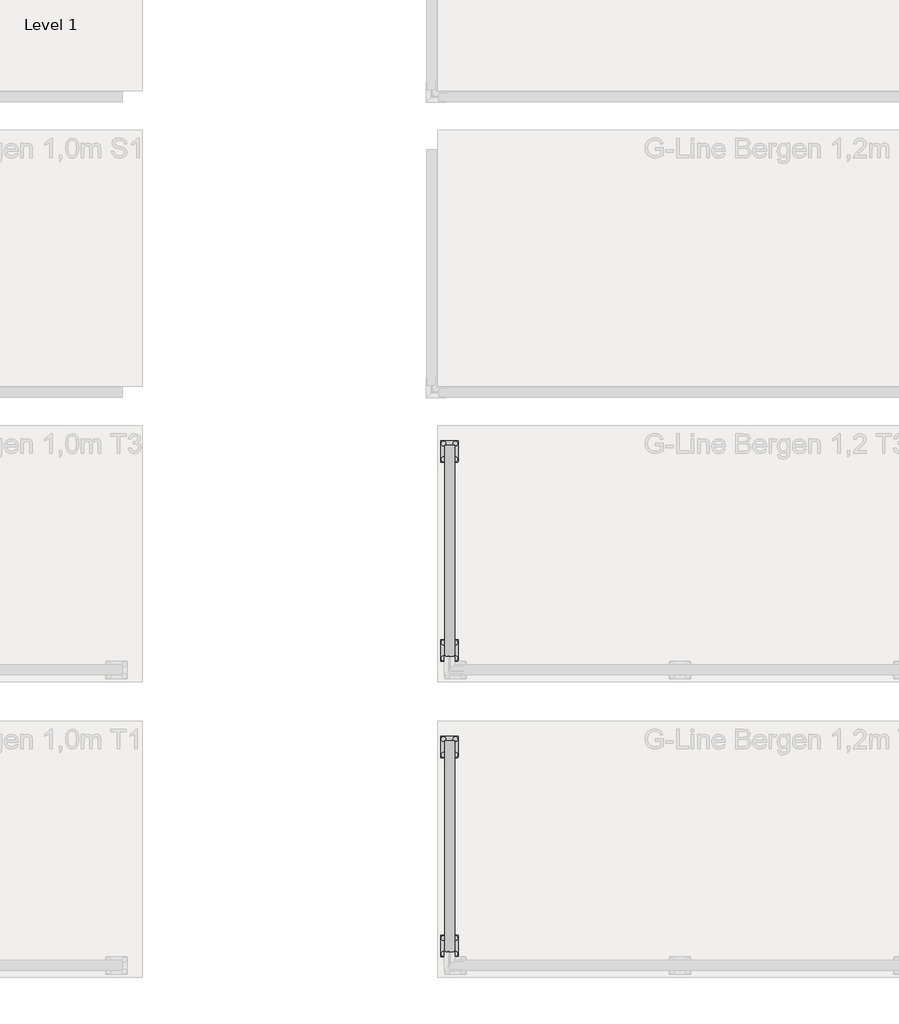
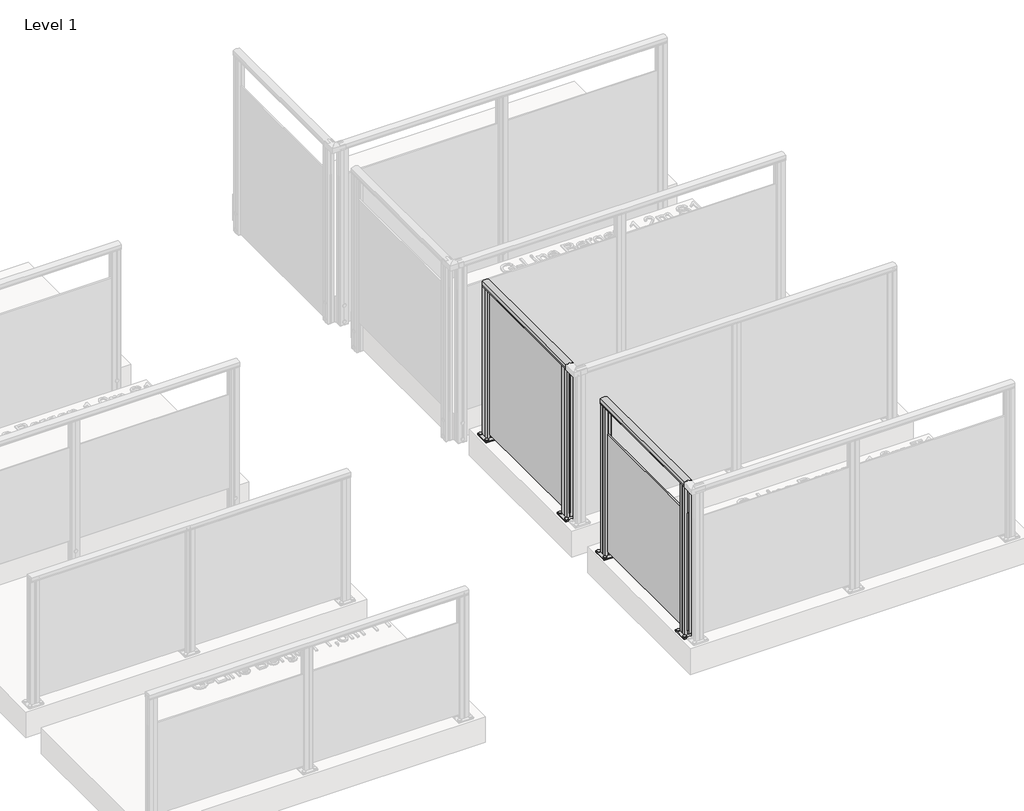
# One storey, part 20 of 66: 2 railings.
"""IFC4 building model written with IfcOpenShell, lengths in millimetres."""

from ifc_helpers import new_model, si_unit, point, frame, frame_2d, origin, origin_with_axes, place, context, project, spatial, polyline, circle_curve, trimmed, segment, composite_curve, outline, extrude, element, save

model = new_model("IFC4")

# Units and contexts
model_context = context("Model", 3, world=origin())
ifc_project = project(units=[si_unit("LENGTHUNIT", "METRE", prefix="MILLI")], contexts=[model_context])

# Site, building, storey
site = spatial("IfcSite", under=ifc_project)
building = spatial("IfcBuilding", under=site)
storey = spatial("IfcBuildingStorey", under=building, Name="Level 1", Elevation=0.0)

# Railings
placement = place(None, origin())
element("IfcRailing", 1, ObjectType="G-Line Bergen 1,2m T1", at=placement, inside=storey, context=model_context, shape_type="SweptSolid", body=[
    extrude(outline(composite_curve([segment(trimmed(circle_curve(frame_2d((1142.6785502, 8557.2511266)), 57.3235687), [point((1194.1390059, 8582.5060869))], [point((1194.1342258, 8531.9864286))], False, "CARTESIAN"), True, "CONTINUOUS"), segment(polyline([(1194.1342258, 8531.9864286), (1167.0235023, 8531.9864286), (1166.4415706, 8532.5683604), (1165.8194895, 8531.9462793), (1157.2498847, 8531.9462793), (1157.2498847, 8533.7512322), (1180.4998829, 8533.7512322), (1180.4998829, 8580.7462783), (1157.2498847, 8580.7462783), (1157.2498847, 8582.5060869), (1165.9694895, 8582.5060869), (1166.5842725, 8581.8913039), (1167.1990555, 8582.5060869), (1194.1390059, 8582.5060869)]), True, "CONTINUOUS")], self_intersect=False)), frame((0.0, -4351.1184021, 0.0), z_axis=(0.0, 1.0, 0.0), x_axis=(0.0, 0.0, 1.0)), (0.0, 0.0, 1.0), 1070.0),
    extrude(outline(polyline([(8552.1463105, -3281.1184021), (8560.9063105, -3281.1184021), (8560.9063105, -4351.1184021), (8552.1463105, -4351.1184021), (8552.1463105, -3281.1184021)])), frame((0.0, 0.0, 40.0), z_axis=(0.0, 0.0, 1.0), x_axis=(1.0, 0.0, 0.0)), (0.0, 0.0, 1.0), 910.0),
    extrude(outline(composite_curve([segment(trimmed(circle_curve(frame_2d((8526.5263105, -4281.1184021)), 11.9621755), [point((8514.564135, -4281.1184021))], [point((8538.488486, -4281.1184021))], False, "CARTESIAN"), True, "CONTINUOUS"), segment(trimmed(circle_curve(frame_2d((8526.5263105, -4281.1184021)), 11.9621755), [point((8538.488486, -4281.1184021))], [point((8514.564135, -4281.1184021))], False, "CARTESIAN"), True, "CONTINUOUS")], self_intersect=False)), frame((0.0, 0.0, 10.0), z_axis=(0.0, 0.0, 1.0), x_axis=(1.0, 0.0, 0.0)), (0.0, 0.0, 1.0), 5.0),
    extrude(outline(composite_curve([segment(trimmed(circle_curve(frame_2d((8586.5263105, -4281.1184021)), 11.9621755), [point((8574.564135, -4281.1184021))], [point((8598.488486, -4281.1184021))], False, "CARTESIAN"), True, "CONTINUOUS"), segment(trimmed(circle_curve(frame_2d((8586.5263105, -4281.1184021)), 11.9621755), [point((8598.488486, -4281.1184021))], [point((8574.564135, -4281.1184021))], False, "CARTESIAN"), True, "CONTINUOUS")], self_intersect=False)), frame((0.0, 0.0, 10.0), z_axis=(0.0, 0.0, 1.0), x_axis=(1.0, 0.0, 0.0)), (0.0, 0.0, 1.0), 5.0),
    extrude(outline(composite_curve([segment(trimmed(circle_curve(frame_2d((8526.5263105, -4361.1184021)), 11.9621755), [point((8514.564135, -4361.1184021))], [point((8538.488486, -4361.1184021))], False, "CARTESIAN"), True, "CONTINUOUS"), segment(trimmed(circle_curve(frame_2d((8526.5263105, -4361.1184021)), 11.9621755), [point((8538.488486, -4361.1184021))], [point((8514.564135, -4361.1184021))], False, "CARTESIAN"), True, "CONTINUOUS")], self_intersect=False)), frame((0.0, 0.0, 10.0), z_axis=(0.0, 0.0, 1.0), x_axis=(1.0, 0.0, 0.0)), (0.0, 0.0, 1.0), 5.0),
    extrude(outline(composite_curve([segment(trimmed(circle_curve(frame_2d((8586.5263105, -4361.1184021)), 11.9621755), [point((8574.564135, -4361.1184021))], [point((8598.488486, -4361.1184021))], False, "CARTESIAN"), True, "CONTINUOUS"), segment(trimmed(circle_curve(frame_2d((8586.5263105, -4361.1184021)), 11.9621755), [point((8598.488486, -4361.1184021))], [point((8574.564135, -4361.1184021))], False, "CARTESIAN"), True, "CONTINUOUS")], self_intersect=False)), frame((0.0, 0.0, 10.0), z_axis=(0.0, 0.0, 1.0), x_axis=(1.0, 0.0, 0.0)), (0.0, 0.0, 1.0), 5.0),
    extrude(outline(composite_curve([segment(trimmed(circle_curve(frame_2d((8596.5263105, -4271.1184021)), 5.0), [point((8596.5263105, -4266.1184021))], [point((8601.5263105, -4271.1184021))], False, "CARTESIAN"), True, "CONTINUOUS"), segment(polyline([(8601.5263105, -4271.1184021), (8601.5263105, -4371.1184021)]), True, "CONTINUOUS"), segment(trimmed(circle_curve(frame_2d((8596.5263105, -4371.1184021)), 5.0), [point((8601.5263105, -4371.1184021))], [point((8596.5263105, -4376.1184021))], False, "CARTESIAN"), True, "CONTINUOUS"), segment(polyline([(8596.5263105, -4376.1184021), (8516.5263105, -4376.1184021)]), True, "CONTINUOUS"), segment(trimmed(circle_curve(frame_2d((8516.5263105, -4371.1184021)), 5.0), [point((8516.5263105, -4376.1184021))], [point((8511.5263105, -4371.1184021))], False, "CARTESIAN"), True, "CONTINUOUS"), segment(polyline([(8511.5263105, -4371.1184021), (8511.5263105, -4271.1184021)]), True, "CONTINUOUS"), segment(trimmed(circle_curve(frame_2d((8516.5263105, -4271.1184021)), 5.0), [point((8511.5263105, -4271.1184021))], [point((8516.5263105, -4266.1184021))], False, "CARTESIAN"), True, "CONTINUOUS"), segment(polyline([(8516.5263105, -4266.1184021), (8596.5263105, -4266.1184021)]), True, "CONTINUOUS")], self_intersect=False), holes=[composite_curve([segment(trimmed(circle_curve(frame_2d((8586.5263105, -4281.1184021)), 6.25), [point((8580.2763105, -4281.1184021))], [point((8592.7763105, -4281.1184021))], True, "CARTESIAN"), True, "CONTINUOUS"), segment(trimmed(circle_curve(frame_2d((8586.5263105, -4281.1184021)), 6.25), [point((8592.7763105, -4281.1184021))], [point((8580.2763105, -4281.1184021))], True, "CARTESIAN"), True, "CONTINUOUS")], self_intersect=False), composite_curve([segment(trimmed(circle_curve(frame_2d((8526.5263105, -4281.1184021)), 6.25), [point((8520.2763105, -4281.1184021))], [point((8532.7763105, -4281.1184021))], True, "CARTESIAN"), True, "CONTINUOUS"), segment(trimmed(circle_curve(frame_2d((8526.5263105, -4281.1184021)), 6.25), [point((8532.7763105, -4281.1184021))], [point((8520.2763105, -4281.1184021))], True, "CARTESIAN"), True, "CONTINUOUS")], self_intersect=False), composite_curve([segment(trimmed(circle_curve(frame_2d((8526.5263105, -4361.1184021)), 6.25), [point((8520.2763105, -4361.1184021))], [point((8532.7763105, -4361.1184021))], True, "CARTESIAN"), True, "CONTINUOUS"), segment(trimmed(circle_curve(frame_2d((8526.5263105, -4361.1184021)), 6.25), [point((8532.7763105, -4361.1184021))], [point((8520.2763105, -4361.1184021))], True, "CARTESIAN"), True, "CONTINUOUS")], self_intersect=False), composite_curve([segment(trimmed(circle_curve(frame_2d((8586.5263105, -4361.1184021)), 6.25), [point((8580.2763105, -4361.1184021))], [point((8592.7763105, -4361.1184021))], True, "CARTESIAN"), True, "CONTINUOUS"), segment(trimmed(circle_curve(frame_2d((8586.5263105, -4361.1184021)), 6.25), [point((8592.7763105, -4361.1184021))], [point((8580.2763105, -4361.1184021))], True, "CARTESIAN"), True, "CONTINUOUS")], self_intersect=False)]), origin_with_axes(), (0.0, 0.0, 1.0), 10.0),
    extrude(outline(polyline([(8552.1804485, -4351.116809), (8534.0354487, -4351.1194812), (8534.0311828, -4322.1524942), (8535.0593241, -4321.12405), (8534.0709345, -4320.1359515), (8534.0666613, -4291.119476), (8552.1716124, -4291.1168097), (8552.1741896, -4308.6168095), (8560.9341895, -4308.6155194), (8560.9316123, -4291.1155196), (8579.0266121, -4291.1128548), (8579.030878, -4320.0798417), (8578.1125457, -4321.1177096), (8578.9909678, -4321.995873), (8578.9952559, -4351.11286), (8560.9404484, -4351.1155189), (8560.9378712, -4333.6155191), (8552.1778713, -4333.6168092), (8552.1804485, -4351.116809)]), holes=[polyline([(8577.0323262, -4312.3191871), (8536.0297347, -4312.3191871), (8536.0297347, -4329.9131488), (8577.0323262, -4329.9131488), (8577.0323262, -4312.3191871)]), polyline([(8550.17444, -4293.1191873), (8536.0269071, -4293.1191873), (8536.0269071, -4310.317104), (8550.17444, -4310.317104), (8550.17444, -4293.1191873)]), polyline([(8577.0323262, -4293.115225), (8562.9319068, -4293.115225), (8562.9319068, -4310.3131487), (8577.0323262, -4310.3131487), (8577.0323262, -4293.115225)]), polyline([(8550.180154, -4331.9191868), (8536.0326211, -4331.9191868), (8536.0326211, -4349.1171035), (8550.180154, -4349.1171035), (8550.180154, -4331.9191868)]), polyline([(8577.0851537, -4331.9152246), (8562.9376209, -4331.9152246), (8562.9376209, -4349.1131413), (8577.0851537, -4349.1131413), (8577.0851537, -4331.9152246)])]), frame((0.0, 0.0, 10.0), z_axis=(0.0, 0.0, 1.0), x_axis=(1.0, 0.0, 0.0)), (0.0, 0.0, 1.0), 1171.0),
    extrude(outline(composite_curve([segment(trimmed(circle_curve(frame_2d((8526.5263105, -3271.1184021)), 11.9621755), [point((8514.564135, -3271.1184021))], [point((8538.488486, -3271.1184021))], False, "CARTESIAN"), True, "CONTINUOUS"), segment(trimmed(circle_curve(frame_2d((8526.5263105, -3271.1184021)), 11.9621755), [point((8538.488486, -3271.1184021))], [point((8514.564135, -3271.1184021))], False, "CARTESIAN"), True, "CONTINUOUS")], self_intersect=False)), frame((0.0, 0.0, 10.0), z_axis=(0.0, 0.0, 1.0), x_axis=(1.0, 0.0, 0.0)), (0.0, 0.0, 1.0), 5.0),
    extrude(outline(composite_curve([segment(trimmed(circle_curve(frame_2d((8586.5263105, -3271.1184021)), 11.9621755), [point((8574.564135, -3271.1184021))], [point((8598.488486, -3271.1184021))], False, "CARTESIAN"), True, "CONTINUOUS"), segment(trimmed(circle_curve(frame_2d((8586.5263105, -3271.1184021)), 11.9621755), [point((8598.488486, -3271.1184021))], [point((8574.564135, -3271.1184021))], False, "CARTESIAN"), True, "CONTINUOUS")], self_intersect=False)), frame((0.0, 0.0, 10.0), z_axis=(0.0, 0.0, 1.0), x_axis=(1.0, 0.0, 0.0)), (0.0, 0.0, 1.0), 5.0),
    extrude(outline(composite_curve([segment(trimmed(circle_curve(frame_2d((8526.5263105, -3351.1184021)), 11.9621755), [point((8514.564135, -3351.1184021))], [point((8538.488486, -3351.1184021))], False, "CARTESIAN"), True, "CONTINUOUS"), segment(trimmed(circle_curve(frame_2d((8526.5263105, -3351.1184021)), 11.9621755), [point((8538.488486, -3351.1184021))], [point((8514.564135, -3351.1184021))], False, "CARTESIAN"), True, "CONTINUOUS")], self_intersect=False)), frame((0.0, 0.0, 10.0), z_axis=(0.0, 0.0, 1.0), x_axis=(1.0, 0.0, 0.0)), (0.0, 0.0, 1.0), 5.0),
    extrude(outline(composite_curve([segment(trimmed(circle_curve(frame_2d((8586.5263105, -3351.1184021)), 11.9621755), [point((8574.564135, -3351.1184021))], [point((8598.488486, -3351.1184021))], False, "CARTESIAN"), True, "CONTINUOUS"), segment(trimmed(circle_curve(frame_2d((8586.5263105, -3351.1184021)), 11.9621755), [point((8598.488486, -3351.1184021))], [point((8574.564135, -3351.1184021))], False, "CARTESIAN"), True, "CONTINUOUS")], self_intersect=False)), frame((0.0, 0.0, 10.0), z_axis=(0.0, 0.0, 1.0), x_axis=(1.0, 0.0, 0.0)), (0.0, 0.0, 1.0), 5.0),
    extrude(outline(composite_curve([segment(trimmed(circle_curve(frame_2d((8596.5263105, -3261.1184021)), 5.0), [point((8596.5263105, -3256.1184021))], [point((8601.5263105, -3261.1184021))], False, "CARTESIAN"), True, "CONTINUOUS"), segment(polyline([(8601.5263105, -3261.1184021), (8601.5263105, -3361.1184021)]), True, "CONTINUOUS"), segment(trimmed(circle_curve(frame_2d((8596.5263105, -3361.1184021)), 5.0), [point((8601.5263105, -3361.1184021))], [point((8596.5263105, -3366.1184021))], False, "CARTESIAN"), True, "CONTINUOUS"), segment(polyline([(8596.5263105, -3366.1184021), (8516.5263105, -3366.1184021)]), True, "CONTINUOUS"), segment(trimmed(circle_curve(frame_2d((8516.5263105, -3361.1184021)), 5.0), [point((8516.5263105, -3366.1184021))], [point((8511.5263105, -3361.1184021))], False, "CARTESIAN"), True, "CONTINUOUS"), segment(polyline([(8511.5263105, -3361.1184021), (8511.5263105, -3261.1184021)]), True, "CONTINUOUS"), segment(trimmed(circle_curve(frame_2d((8516.5263105, -3261.1184021)), 5.0), [point((8511.5263105, -3261.1184021))], [point((8516.5263105, -3256.1184021))], False, "CARTESIAN"), True, "CONTINUOUS"), segment(polyline([(8516.5263105, -3256.1184021), (8596.5263105, -3256.1184021)]), True, "CONTINUOUS")], self_intersect=False), holes=[composite_curve([segment(trimmed(circle_curve(frame_2d((8586.5263105, -3271.1184021)), 6.25), [point((8580.2763105, -3271.1184021))], [point((8592.7763105, -3271.1184021))], True, "CARTESIAN"), True, "CONTINUOUS"), segment(trimmed(circle_curve(frame_2d((8586.5263105, -3271.1184021)), 6.25), [point((8592.7763105, -3271.1184021))], [point((8580.2763105, -3271.1184021))], True, "CARTESIAN"), True, "CONTINUOUS")], self_intersect=False), composite_curve([segment(trimmed(circle_curve(frame_2d((8526.5263105, -3271.1184021)), 6.25), [point((8520.2763105, -3271.1184021))], [point((8532.7763105, -3271.1184021))], True, "CARTESIAN"), True, "CONTINUOUS"), segment(trimmed(circle_curve(frame_2d((8526.5263105, -3271.1184021)), 6.25), [point((8532.7763105, -3271.1184021))], [point((8520.2763105, -3271.1184021))], True, "CARTESIAN"), True, "CONTINUOUS")], self_intersect=False), composite_curve([segment(trimmed(circle_curve(frame_2d((8526.5263105, -3351.1184021)), 6.25), [point((8520.2763105, -3351.1184021))], [point((8532.7763105, -3351.1184021))], True, "CARTESIAN"), True, "CONTINUOUS"), segment(trimmed(circle_curve(frame_2d((8526.5263105, -3351.1184021)), 6.25), [point((8532.7763105, -3351.1184021))], [point((8520.2763105, -3351.1184021))], True, "CARTESIAN"), True, "CONTINUOUS")], self_intersect=False), composite_curve([segment(trimmed(circle_curve(frame_2d((8586.5263105, -3351.1184021)), 6.25), [point((8580.2763105, -3351.1184021))], [point((8592.7763105, -3351.1184021))], True, "CARTESIAN"), True, "CONTINUOUS"), segment(trimmed(circle_curve(frame_2d((8586.5263105, -3351.1184021)), 6.25), [point((8592.7763105, -3351.1184021))], [point((8580.2763105, -3351.1184021))], True, "CARTESIAN"), True, "CONTINUOUS")], self_intersect=False)]), origin_with_axes(), (0.0, 0.0, 1.0), 10.0),
    extrude(outline(polyline([(8552.1804485, -3341.116809), (8534.0354487, -3341.1194812), (8534.0311828, -3312.1524942), (8535.0593241, -3311.12405), (8534.0709345, -3310.1359515), (8534.0666613, -3281.119476), (8552.1716124, -3281.1168097), (8552.1741896, -3298.6168095), (8560.9341895, -3298.6155194), (8560.9316123, -3281.1155196), (8579.0266121, -3281.1128548), (8579.030878, -3310.0798417), (8578.1125457, -3311.1177096), (8578.9909678, -3311.995873), (8578.9952559, -3341.11286), (8560.9404484, -3341.1155189), (8560.9378712, -3323.6155191), (8552.1778713, -3323.6168092), (8552.1804485, -3341.116809)]), holes=[polyline([(8577.0323262, -3302.3191871), (8536.0297347, -3302.3191871), (8536.0297347, -3319.9131488), (8577.0323262, -3319.9131488), (8577.0323262, -3302.3191871)]), polyline([(8550.17444, -3283.1191873), (8536.0269071, -3283.1191873), (8536.0269071, -3300.317104), (8550.17444, -3300.317104), (8550.17444, -3283.1191873)]), polyline([(8577.0323262, -3283.115225), (8562.9319068, -3283.115225), (8562.9319068, -3300.3131487), (8577.0323262, -3300.3131487), (8577.0323262, -3283.115225)]), polyline([(8550.180154, -3321.9191868), (8536.0326211, -3321.9191868), (8536.0326211, -3339.1171035), (8550.180154, -3339.1171035), (8550.180154, -3321.9191868)]), polyline([(8577.0851537, -3321.9152246), (8562.9376209, -3321.9152246), (8562.9376209, -3339.1131413), (8577.0851537, -3339.1131413), (8577.0851537, -3321.9152246)])]), frame((0.0, 0.0, 10.0), z_axis=(0.0, 0.0, 1.0), x_axis=(1.0, 0.0, 0.0)), (0.0, 0.0, 1.0), 1171.0),
])
element("IfcRailing", 2, ObjectType="G-Line Bergen 1,2m T3", at=placement, inside=storey, context=model_context, shape_type="SweptSolid", body=[
    extrude(outline(composite_curve([segment(trimmed(circle_curve(frame_2d((1142.6785502, 8557.2511266)), 57.3235687), [point((1194.1390059, 8582.5060869))], [point((1194.1342258, 8531.9864286))], False, "CARTESIAN"), True, "CONTINUOUS"), segment(polyline([(1194.1342258, 8531.9864286), (1167.0235023, 8531.9864286), (1166.4415706, 8532.5683604), (1165.8194895, 8531.9462793), (1157.2498847, 8531.9462793), (1157.2498847, 8533.7512322), (1180.4998829, 8533.7512322), (1180.4998829, 8580.7462783), (1157.2498847, 8580.7462783), (1157.2498847, 8582.5060869), (1165.9694895, 8582.5060869), (1166.5842725, 8581.8913039), (1167.1990555, 8582.5060869), (1194.1390059, 8582.5060869)]), True, "CONTINUOUS")], self_intersect=False)), frame((0.0, -2851.1184021, 0.0), z_axis=(0.0, 1.0, 0.0), x_axis=(0.0, 0.0, 1.0)), (0.0, 0.0, 1.0), 1070.0),
    extrude(outline(polyline([(8552.1463105, -1781.1184021), (8560.9063105, -1781.1184021), (8560.9063105, -2851.1184021), (8552.1463105, -2851.1184021), (8552.1463105, -1781.1184021)])), frame((0.0, 0.0, 40.0), z_axis=(0.0, 0.0, 1.0), x_axis=(1.0, 0.0, 0.0)), (0.0, 0.0, 1.0), 1140.0),
    extrude(outline(composite_curve([segment(trimmed(circle_curve(frame_2d((8526.5263105, -2781.1184021)), 11.9621755), [point((8514.564135, -2781.1184021))], [point((8538.488486, -2781.1184021))], False, "CARTESIAN"), True, "CONTINUOUS"), segment(trimmed(circle_curve(frame_2d((8526.5263105, -2781.1184021)), 11.9621755), [point((8538.488486, -2781.1184021))], [point((8514.564135, -2781.1184021))], False, "CARTESIAN"), True, "CONTINUOUS")], self_intersect=False)), frame((0.0, 0.0, 10.0), z_axis=(0.0, 0.0, 1.0), x_axis=(1.0, 0.0, 0.0)), (0.0, 0.0, 1.0), 5.0),
    extrude(outline(composite_curve([segment(trimmed(circle_curve(frame_2d((8586.5263105, -2781.1184021)), 11.9621755), [point((8574.564135, -2781.1184021))], [point((8598.488486, -2781.1184021))], False, "CARTESIAN"), True, "CONTINUOUS"), segment(trimmed(circle_curve(frame_2d((8586.5263105, -2781.1184021)), 11.9621755), [point((8598.488486, -2781.1184021))], [point((8574.564135, -2781.1184021))], False, "CARTESIAN"), True, "CONTINUOUS")], self_intersect=False)), frame((0.0, 0.0, 10.0), z_axis=(0.0, 0.0, 1.0), x_axis=(1.0, 0.0, 0.0)), (0.0, 0.0, 1.0), 5.0),
    extrude(outline(composite_curve([segment(trimmed(circle_curve(frame_2d((8526.5263105, -2861.1184021)), 11.9621755), [point((8514.564135, -2861.1184021))], [point((8538.488486, -2861.1184021))], False, "CARTESIAN"), True, "CONTINUOUS"), segment(trimmed(circle_curve(frame_2d((8526.5263105, -2861.1184021)), 11.9621755), [point((8538.488486, -2861.1184021))], [point((8514.564135, -2861.1184021))], False, "CARTESIAN"), True, "CONTINUOUS")], self_intersect=False)), frame((0.0, 0.0, 10.0), z_axis=(0.0, 0.0, 1.0), x_axis=(1.0, 0.0, 0.0)), (0.0, 0.0, 1.0), 5.0),
    extrude(outline(composite_curve([segment(trimmed(circle_curve(frame_2d((8586.5263105, -2861.1184021)), 11.9621755), [point((8574.564135, -2861.1184021))], [point((8598.488486, -2861.1184021))], False, "CARTESIAN"), True, "CONTINUOUS"), segment(trimmed(circle_curve(frame_2d((8586.5263105, -2861.1184021)), 11.9621755), [point((8598.488486, -2861.1184021))], [point((8574.564135, -2861.1184021))], False, "CARTESIAN"), True, "CONTINUOUS")], self_intersect=False)), frame((0.0, 0.0, 10.0), z_axis=(0.0, 0.0, 1.0), x_axis=(1.0, 0.0, 0.0)), (0.0, 0.0, 1.0), 5.0),
    extrude(outline(composite_curve([segment(trimmed(circle_curve(frame_2d((8596.5263105, -2771.1184021)), 5.0), [point((8596.5263105, -2766.1184021))], [point((8601.5263105, -2771.1184021))], False, "CARTESIAN"), True, "CONTINUOUS"), segment(polyline([(8601.5263105, -2771.1184021), (8601.5263105, -2871.1184021)]), True, "CONTINUOUS"), segment(trimmed(circle_curve(frame_2d((8596.5263105, -2871.1184021)), 5.0), [point((8601.5263105, -2871.1184021))], [point((8596.5263105, -2876.1184021))], False, "CARTESIAN"), True, "CONTINUOUS"), segment(polyline([(8596.5263105, -2876.1184021), (8516.5263105, -2876.1184021)]), True, "CONTINUOUS"), segment(trimmed(circle_curve(frame_2d((8516.5263105, -2871.1184021)), 5.0), [point((8516.5263105, -2876.1184021))], [point((8511.5263105, -2871.1184021))], False, "CARTESIAN"), True, "CONTINUOUS"), segment(polyline([(8511.5263105, -2871.1184021), (8511.5263105, -2771.1184021)]), True, "CONTINUOUS"), segment(trimmed(circle_curve(frame_2d((8516.5263105, -2771.1184021)), 5.0), [point((8511.5263105, -2771.1184021))], [point((8516.5263105, -2766.1184021))], False, "CARTESIAN"), True, "CONTINUOUS"), segment(polyline([(8516.5263105, -2766.1184021), (8596.5263105, -2766.1184021)]), True, "CONTINUOUS")], self_intersect=False), holes=[composite_curve([segment(trimmed(circle_curve(frame_2d((8586.5263105, -2781.1184021)), 6.25), [point((8580.2763105, -2781.1184021))], [point((8592.7763105, -2781.1184021))], True, "CARTESIAN"), True, "CONTINUOUS"), segment(trimmed(circle_curve(frame_2d((8586.5263105, -2781.1184021)), 6.25), [point((8592.7763105, -2781.1184021))], [point((8580.2763105, -2781.1184021))], True, "CARTESIAN"), True, "CONTINUOUS")], self_intersect=False), composite_curve([segment(trimmed(circle_curve(frame_2d((8526.5263105, -2781.1184021)), 6.25), [point((8520.2763105, -2781.1184021))], [point((8532.7763105, -2781.1184021))], True, "CARTESIAN"), True, "CONTINUOUS"), segment(trimmed(circle_curve(frame_2d((8526.5263105, -2781.1184021)), 6.25), [point((8532.7763105, -2781.1184021))], [point((8520.2763105, -2781.1184021))], True, "CARTESIAN"), True, "CONTINUOUS")], self_intersect=False), composite_curve([segment(trimmed(circle_curve(frame_2d((8526.5263105, -2861.1184021)), 6.25), [point((8520.2763105, -2861.1184021))], [point((8532.7763105, -2861.1184021))], True, "CARTESIAN"), True, "CONTINUOUS"), segment(trimmed(circle_curve(frame_2d((8526.5263105, -2861.1184021)), 6.25), [point((8532.7763105, -2861.1184021))], [point((8520.2763105, -2861.1184021))], True, "CARTESIAN"), True, "CONTINUOUS")], self_intersect=False), composite_curve([segment(trimmed(circle_curve(frame_2d((8586.5263105, -2861.1184021)), 6.25), [point((8580.2763105, -2861.1184021))], [point((8592.7763105, -2861.1184021))], True, "CARTESIAN"), True, "CONTINUOUS"), segment(trimmed(circle_curve(frame_2d((8586.5263105, -2861.1184021)), 6.25), [point((8592.7763105, -2861.1184021))], [point((8580.2763105, -2861.1184021))], True, "CARTESIAN"), True, "CONTINUOUS")], self_intersect=False)]), origin_with_axes(), (0.0, 0.0, 1.0), 10.0),
    extrude(outline(polyline([(8552.1804485, -2851.116809), (8534.0354487, -2851.1194812), (8534.0311828, -2822.1524942), (8535.0593241, -2821.12405), (8534.0709345, -2820.1359515), (8534.0666613, -2791.119476), (8552.1716124, -2791.1168097), (8552.1741896, -2808.6168095), (8560.9341895, -2808.6155194), (8560.9316123, -2791.1155196), (8579.0266121, -2791.1128548), (8579.030878, -2820.0798417), (8578.1125457, -2821.1177096), (8578.9909678, -2821.995873), (8578.9952559, -2851.11286), (8560.9404484, -2851.1155189), (8560.9378712, -2833.6155191), (8552.1778713, -2833.6168092), (8552.1804485, -2851.116809)]), holes=[polyline([(8577.0323262, -2812.3191871), (8536.0297347, -2812.3191871), (8536.0297347, -2829.9131488), (8577.0323262, -2829.9131488), (8577.0323262, -2812.3191871)]), polyline([(8550.17444, -2793.1191873), (8536.0269071, -2793.1191873), (8536.0269071, -2810.317104), (8550.17444, -2810.317104), (8550.17444, -2793.1191873)]), polyline([(8577.0323262, -2793.115225), (8562.9319068, -2793.115225), (8562.9319068, -2810.3131487), (8577.0323262, -2810.3131487), (8577.0323262, -2793.115225)]), polyline([(8550.180154, -2831.9191868), (8536.0326211, -2831.9191868), (8536.0326211, -2849.1171035), (8550.180154, -2849.1171035), (8550.180154, -2831.9191868)]), polyline([(8577.0851537, -2831.9152246), (8562.9376209, -2831.9152246), (8562.9376209, -2849.1131413), (8577.0851537, -2849.1131413), (8577.0851537, -2831.9152246)])]), frame((0.0, 0.0, 10.0), z_axis=(0.0, 0.0, 1.0), x_axis=(1.0, 0.0, 0.0)), (0.0, 0.0, 1.0), 1171.0),
    extrude(outline(composite_curve([segment(trimmed(circle_curve(frame_2d((8526.5263105, -1771.1184021)), 11.9621755), [point((8514.564135, -1771.1184021))], [point((8538.488486, -1771.1184021))], False, "CARTESIAN"), True, "CONTINUOUS"), segment(trimmed(circle_curve(frame_2d((8526.5263105, -1771.1184021)), 11.9621755), [point((8538.488486, -1771.1184021))], [point((8514.564135, -1771.1184021))], False, "CARTESIAN"), True, "CONTINUOUS")], self_intersect=False)), frame((0.0, 0.0, 10.0), z_axis=(0.0, 0.0, 1.0), x_axis=(1.0, 0.0, 0.0)), (0.0, 0.0, 1.0), 5.0),
    extrude(outline(composite_curve([segment(trimmed(circle_curve(frame_2d((8586.5263105, -1771.1184021)), 11.9621755), [point((8574.564135, -1771.1184021))], [point((8598.488486, -1771.1184021))], False, "CARTESIAN"), True, "CONTINUOUS"), segment(trimmed(circle_curve(frame_2d((8586.5263105, -1771.1184021)), 11.9621755), [point((8598.488486, -1771.1184021))], [point((8574.564135, -1771.1184021))], False, "CARTESIAN"), True, "CONTINUOUS")], self_intersect=False)), frame((0.0, 0.0, 10.0), z_axis=(0.0, 0.0, 1.0), x_axis=(1.0, 0.0, 0.0)), (0.0, 0.0, 1.0), 5.0),
    extrude(outline(composite_curve([segment(trimmed(circle_curve(frame_2d((8526.5263105, -1851.1184021)), 11.9621755), [point((8514.564135, -1851.1184021))], [point((8538.488486, -1851.1184021))], False, "CARTESIAN"), True, "CONTINUOUS"), segment(trimmed(circle_curve(frame_2d((8526.5263105, -1851.1184021)), 11.9621755), [point((8538.488486, -1851.1184021))], [point((8514.564135, -1851.1184021))], False, "CARTESIAN"), True, "CONTINUOUS")], self_intersect=False)), frame((0.0, 0.0, 10.0), z_axis=(0.0, 0.0, 1.0), x_axis=(1.0, 0.0, 0.0)), (0.0, 0.0, 1.0), 5.0),
    extrude(outline(composite_curve([segment(trimmed(circle_curve(frame_2d((8586.5263105, -1851.1184021)), 11.9621755), [point((8574.564135, -1851.1184021))], [point((8598.488486, -1851.1184021))], False, "CARTESIAN"), True, "CONTINUOUS"), segment(trimmed(circle_curve(frame_2d((8586.5263105, -1851.1184021)), 11.9621755), [point((8598.488486, -1851.1184021))], [point((8574.564135, -1851.1184021))], False, "CARTESIAN"), True, "CONTINUOUS")], self_intersect=False)), frame((0.0, 0.0, 10.0), z_axis=(0.0, 0.0, 1.0), x_axis=(1.0, 0.0, 0.0)), (0.0, 0.0, 1.0), 5.0),
    extrude(outline(composite_curve([segment(trimmed(circle_curve(frame_2d((8596.5263105, -1761.1184021)), 5.0), [point((8596.5263105, -1756.1184021))], [point((8601.5263105, -1761.1184021))], False, "CARTESIAN"), True, "CONTINUOUS"), segment(polyline([(8601.5263105, -1761.1184021), (8601.5263105, -1861.1184021)]), True, "CONTINUOUS"), segment(trimmed(circle_curve(frame_2d((8596.5263105, -1861.1184021)), 5.0), [point((8601.5263105, -1861.1184021))], [point((8596.5263105, -1866.1184021))], False, "CARTESIAN"), True, "CONTINUOUS"), segment(polyline([(8596.5263105, -1866.1184021), (8516.5263105, -1866.1184021)]), True, "CONTINUOUS"), segment(trimmed(circle_curve(frame_2d((8516.5263105, -1861.1184021)), 5.0), [point((8516.5263105, -1866.1184021))], [point((8511.5263105, -1861.1184021))], False, "CARTESIAN"), True, "CONTINUOUS"), segment(polyline([(8511.5263105, -1861.1184021), (8511.5263105, -1761.1184021)]), True, "CONTINUOUS"), segment(trimmed(circle_curve(frame_2d((8516.5263105, -1761.1184021)), 5.0), [point((8511.5263105, -1761.1184021))], [point((8516.5263105, -1756.1184021))], False, "CARTESIAN"), True, "CONTINUOUS"), segment(polyline([(8516.5263105, -1756.1184021), (8596.5263105, -1756.1184021)]), True, "CONTINUOUS")], self_intersect=False), holes=[composite_curve([segment(trimmed(circle_curve(frame_2d((8586.5263105, -1771.1184021)), 6.25), [point((8580.2763105, -1771.1184021))], [point((8592.7763105, -1771.1184021))], True, "CARTESIAN"), True, "CONTINUOUS"), segment(trimmed(circle_curve(frame_2d((8586.5263105, -1771.1184021)), 6.25), [point((8592.7763105, -1771.1184021))], [point((8580.2763105, -1771.1184021))], True, "CARTESIAN"), True, "CONTINUOUS")], self_intersect=False), composite_curve([segment(trimmed(circle_curve(frame_2d((8526.5263105, -1771.1184021)), 6.25), [point((8520.2763105, -1771.1184021))], [point((8532.7763105, -1771.1184021))], True, "CARTESIAN"), True, "CONTINUOUS"), segment(trimmed(circle_curve(frame_2d((8526.5263105, -1771.1184021)), 6.25), [point((8532.7763105, -1771.1184021))], [point((8520.2763105, -1771.1184021))], True, "CARTESIAN"), True, "CONTINUOUS")], self_intersect=False), composite_curve([segment(trimmed(circle_curve(frame_2d((8526.5263105, -1851.1184021)), 6.25), [point((8520.2763105, -1851.1184021))], [point((8532.7763105, -1851.1184021))], True, "CARTESIAN"), True, "CONTINUOUS"), segment(trimmed(circle_curve(frame_2d((8526.5263105, -1851.1184021)), 6.25), [point((8532.7763105, -1851.1184021))], [point((8520.2763105, -1851.1184021))], True, "CARTESIAN"), True, "CONTINUOUS")], self_intersect=False), composite_curve([segment(trimmed(circle_curve(frame_2d((8586.5263105, -1851.1184021)), 6.25), [point((8580.2763105, -1851.1184021))], [point((8592.7763105, -1851.1184021))], True, "CARTESIAN"), True, "CONTINUOUS"), segment(trimmed(circle_curve(frame_2d((8586.5263105, -1851.1184021)), 6.25), [point((8592.7763105, -1851.1184021))], [point((8580.2763105, -1851.1184021))], True, "CARTESIAN"), True, "CONTINUOUS")], self_intersect=False)]), origin_with_axes(), (0.0, 0.0, 1.0), 10.0),
    extrude(outline(polyline([(8552.1804485, -1841.116809), (8534.0354487, -1841.1194812), (8534.0311828, -1812.1524942), (8535.0593241, -1811.12405), (8534.0709345, -1810.1359515), (8534.0666613, -1781.119476), (8552.1716124, -1781.1168097), (8552.1741896, -1798.6168095), (8560.9341895, -1798.6155194), (8560.9316123, -1781.1155196), (8579.0266121, -1781.1128548), (8579.030878, -1810.0798417), (8578.1125457, -1811.1177096), (8578.9909678, -1811.995873), (8578.9952559, -1841.11286), (8560.9404484, -1841.1155189), (8560.9378712, -1823.6155191), (8552.1778713, -1823.6168092), (8552.1804485, -1841.116809)]), holes=[polyline([(8577.0323262, -1802.3191871), (8536.0297347, -1802.3191871), (8536.0297347, -1819.9131488), (8577.0323262, -1819.9131488), (8577.0323262, -1802.3191871)]), polyline([(8550.17444, -1783.1191873), (8536.0269071, -1783.1191873), (8536.0269071, -1800.317104), (8550.17444, -1800.317104), (8550.17444, -1783.1191873)]), polyline([(8577.0323262, -1783.115225), (8562.9319068, -1783.115225), (8562.9319068, -1800.3131487), (8577.0323262, -1800.3131487), (8577.0323262, -1783.115225)]), polyline([(8550.180154, -1821.9191868), (8536.0326211, -1821.9191868), (8536.0326211, -1839.1171035), (8550.180154, -1839.1171035), (8550.180154, -1821.9191868)]), polyline([(8577.0851537, -1821.9152246), (8562.9376209, -1821.9152246), (8562.9376209, -1839.1131413), (8577.0851537, -1839.1131413), (8577.0851537, -1821.9152246)])]), frame((0.0, 0.0, 10.0), z_axis=(0.0, 0.0, 1.0), x_axis=(1.0, 0.0, 0.0)), (0.0, 0.0, 1.0), 1171.0),
])

save(model, "model.ifc")
